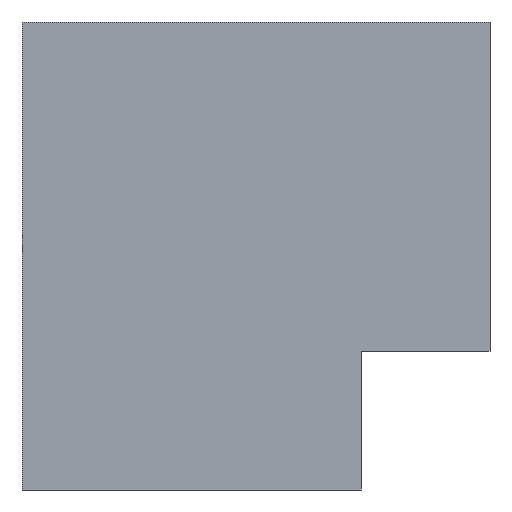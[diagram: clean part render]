
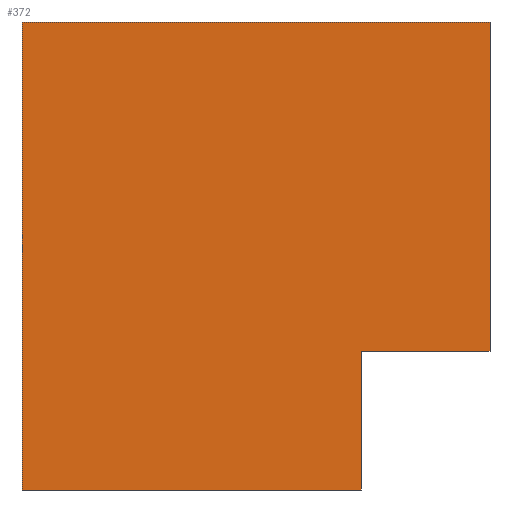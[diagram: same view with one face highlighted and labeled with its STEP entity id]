
A CAD part, left-side view. The second image highlights one B-rep face of the part: STEP entity #372.
In plain terms, the highlighted planar face has unit normal (-1, 0, 0).
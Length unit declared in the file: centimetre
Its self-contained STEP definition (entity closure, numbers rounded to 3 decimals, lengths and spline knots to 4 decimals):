
#47 = CARTESIAN_POINT ( 'NONE',  ( 0., 1000., 0. ) ) ;
#77 = ORIENTED_EDGE ( 'NONE', *, *, #260, .T. ) ;
#114 = VECTOR ( 'NONE', #357, 100. ) ;
#123 = EDGE_CURVE ( 'NONE', #892, #332, #415, .T. ) ;
#124 = VECTOR ( 'NONE', #366, 100. ) ;
#130 = ORIENTED_EDGE ( 'NONE', *, *, #274, .T. ) ;
#132 = CARTESIAN_POINT ( 'NONE',  ( 0., 0., 296.4516 ) ) ;
#159 = CARTESIAN_POINT ( 'NONE',  ( 0., 275.4307, 0. ) ) ;
#186 = DIRECTION ( 'NONE',  ( 0., 0., -1. ) ) ;
#237 = CARTESIAN_POINT ( 'NONE',  ( 0., 0., 296.4516 ) ) ;
#252 = CARTESIAN_POINT ( 'NONE',  ( 0., 0., 1000. ) ) ;
#260 = EDGE_CURVE ( 'NONE', #422, #781, #887, .T. ) ;
#274 = EDGE_CURVE ( 'NONE', #565, #422, #963, .T. ) ;
#323 = VECTOR ( 'NONE', #186, 100. ) ;
#330 = ORIENTED_EDGE ( 'NONE', *, *, #791, .F. ) ;
#332 = VERTEX_POINT ( 'NONE', #453 ) ;
#333 = DIRECTION ( 'NONE',  ( 0., 1., 0. ) ) ;
#356 = CARTESIAN_POINT ( 'NONE',  ( 0., 1000., 1000. ) ) ;
#357 = DIRECTION ( 'NONE',  ( 0., 0., -1. ) ) ;
#366 = DIRECTION ( 'NONE',  ( 0., -1., 0. ) ) ;
#372 = ADVANCED_FACE ( 'NONE', ( #401 ), #810, .F. ) ;
#401 = FACE_OUTER_BOUND ( 'NONE', #526, .T. ) ;
#415 = LINE ( 'NONE', #237, #996 ) ;
#419 = VECTOR ( 'NONE', #449, 100. ) ;
#422 = VERTEX_POINT ( 'NONE', #47 ) ;
#424 = CARTESIAN_POINT ( 'NONE',  ( 0., 1000., 0. ) ) ;
#449 = DIRECTION ( 'NONE',  ( 0., -1., 0. ) ) ;
#453 = CARTESIAN_POINT ( 'NONE',  ( 0., 275.4307, 296.4516 ) ) ;
#518 = LINE ( 'NONE', #159, #114 ) ;
#520 = VECTOR ( 'NONE', #793, 100. ) ;
#522 = CARTESIAN_POINT ( 'NONE',  ( 0., 0., 1000. ) ) ;
#525 = AXIS2_PLACEMENT_3D ( 'NONE', #649, #741, #826 ) ;
#526 = EDGE_LOOP ( 'NONE', ( #77, #984, #1118, #608, #330, #130 ) ) ;
#565 = VERTEX_POINT ( 'NONE', #356 ) ;
#608 = ORIENTED_EDGE ( 'NONE', *, *, #1068, .F. ) ;
#649 = CARTESIAN_POINT ( 'NONE',  ( 0., 1000., 1000. ) ) ;
#706 = LINE ( 'NONE', #872, #419 ) ;
#741 = DIRECTION ( 'NONE',  ( 1., 0., 0. ) ) ;
#781 = VERTEX_POINT ( 'NONE', #814 ) ;
#791 = EDGE_CURVE ( 'NONE', #565, #1062, #706, .T. ) ;
#793 = DIRECTION ( 'NONE',  ( 0., 0., -1. ) ) ;
#806 = CARTESIAN_POINT ( 'NONE',  ( 0., 1000., 1000. ) ) ;
#810 = PLANE ( 'NONE',  #525 ) ;
#814 = CARTESIAN_POINT ( 'NONE',  ( 0., 275.4307, 0. ) ) ;
#826 = DIRECTION ( 'NONE',  ( 0., 0., -1. ) ) ;
#858 = LINE ( 'NONE', #522, #520 ) ;
#872 = CARTESIAN_POINT ( 'NONE',  ( 0., 1000., 1000. ) ) ;
#887 = LINE ( 'NONE', #424, #124 ) ;
#892 = VERTEX_POINT ( 'NONE', #132 ) ;
#963 = LINE ( 'NONE', #806, #323 ) ;
#984 = ORIENTED_EDGE ( 'NONE', *, *, #1018, .F. ) ;
#996 = VECTOR ( 'NONE', #333, 100. ) ;
#1018 = EDGE_CURVE ( 'NONE', #332, #781, #518, .T. ) ;
#1062 = VERTEX_POINT ( 'NONE', #252 ) ;
#1068 = EDGE_CURVE ( 'NONE', #1062, #892, #858, .T. ) ;
#1118 = ORIENTED_EDGE ( 'NONE', *, *, #123, .F. ) ;
